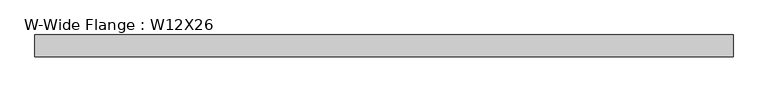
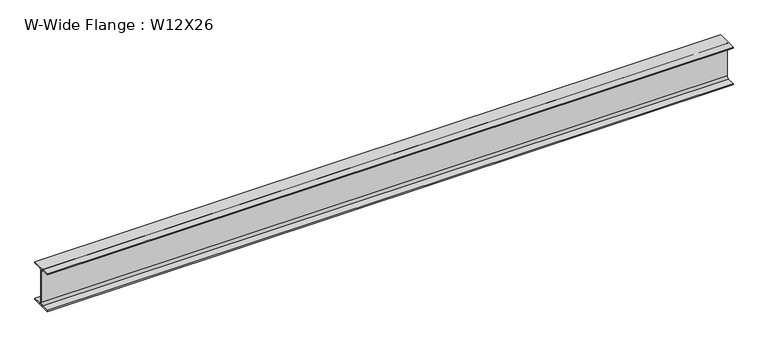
"""IFC4 building model written with IfcOpenShell, lengths in millimetres: beam geometry, W-Wide Flange : W12X26."""

from ifc_helpers import new_model, si_unit, point, frame, frame_2d, origin, place, context, project, spatial, polyline, circle_curve, trimmed, segment, composite_curve, outline, extrude, source, transform, mapped, element, save


def w_wide_flange_w12x26_99a39e3e(model_context):
    return source(origin(), model_context, "Body", "SweptSolid", [
        extrude(outline(composite_curve([segment(polyline([(82.423, -145.288), (82.423, -154.94), (-82.423, -154.94), (-82.423, -145.288), (-20.2565, -145.288)]), True, "CONTINUOUS"), segment(trimmed(circle_curve(frame_2d((-20.2565, -127.9525)), 17.3355), [point((-20.2565, -145.288))], [point((-2.921, -127.9525))], True, "CARTESIAN"), True, "CONTINUOUS"), segment(polyline([(-2.921, -127.9525), (-2.921, 127.9525)]), True, "CONTINUOUS"), segment(trimmed(circle_curve(frame_2d((-20.2565, 127.9525)), 17.3355), [point((-2.921, 127.9525))], [point((-20.2565, 145.288))], True, "CARTESIAN"), True, "CONTINUOUS"), segment(polyline([(-20.2565, 145.288), (-82.423, 145.288), (-82.423, 154.94), (82.423, 154.94), (82.423, 145.288), (20.2565, 145.288)]), True, "CONTINUOUS"), segment(trimmed(circle_curve(frame_2d((20.2565, 127.9525)), 17.3355), [point((20.2565, 145.288))], [point((2.921, 127.9525))], True, "CARTESIAN"), True, "CONTINUOUS"), segment(polyline([(2.921, 127.9525), (2.921, -127.9525)]), True, "CONTINUOUS"), segment(trimmed(circle_curve(frame_2d((20.2565, -127.9525)), 17.3355), [point((2.921, -127.9525))], [point((20.2565, -145.288))], True, "CARTESIAN"), True, "CONTINUOUS"), segment(polyline([(20.2565, -145.288), (82.423, -145.288)]), True, "CONTINUOUS")], self_intersect=False)), frame((-4026.027, 0.0, 0.0), z_axis=(1.0, 0.0, 0.0), x_axis=(0.0, 1.0, 0.0)), (0.0, 0.0, 1.0), 5308.854),
    ])


if __name__ == "__main__":
    model = new_model("IFC4")
    model_context = context("Model", 3, world=origin())
    ifc_project = project(units=[si_unit("LENGTHUNIT", "METRE", prefix="MILLI")], contexts=[model_context])
    site = spatial("IfcSite", under=ifc_project)
    building = spatial("IfcBuilding", under=site)
    placement = place(None, origin())
    w_wide_flange_w12x26_shape = w_wide_flange_w12x26_99a39e3e(model_context)
    element("IfcBeam", 1, ObjectType="W-Wide Flange : W12X26", at=placement, inside=building, context=model_context, shape_type="MappedRepresentation", body=[
        mapped(w_wide_flange_w12x26_shape, transform((0.0, 0.0, 0.0), x_axis=(1.0, 0.0, 0.0), y_axis=(0.0, 1.0, 0.0), z_axis=(0.0, 0.0, 1.0))),
    ])
    save(model, "model.ifc")
